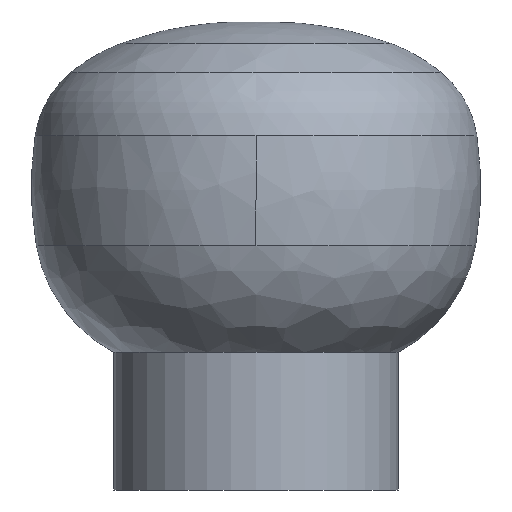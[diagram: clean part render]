
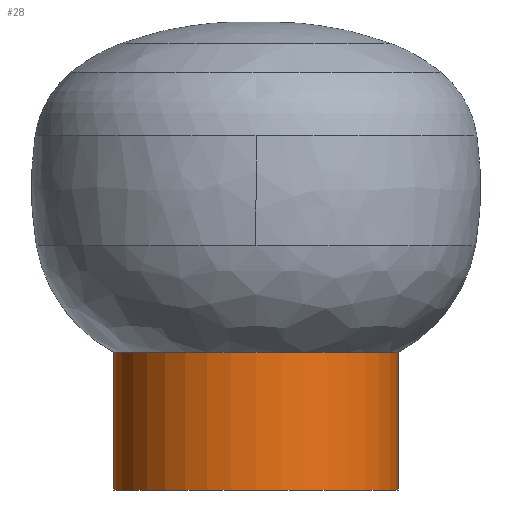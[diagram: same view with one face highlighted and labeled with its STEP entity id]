
A CAD part, front view. The second image highlights one B-rep face of the part: STEP entity #28.
In plain terms, the highlighted cylindrical face has radius 140 mm (diameter 280 mm), a partial arc.
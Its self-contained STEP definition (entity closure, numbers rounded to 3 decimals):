
#28=ADVANCED_FACE('',(#45),#237,.T.);
#45=FACE_OUTER_BOUND('',#62,.T.);
#62=EDGE_LOOP('',(#82,#83,#84,#85));
#82=ORIENTED_EDGE('',*,*,#142,.T.);
#83=ORIENTED_EDGE('',*,*,#141,.F.);
#84=ORIENTED_EDGE('',*,*,#143,.T.);
#85=ORIENTED_EDGE('',*,*,#139,.F.);
#139=EDGE_CURVE('',#216,#217,#168,.T.);
#141=EDGE_CURVE('',#218,#215,#169,.T.);
#142=EDGE_CURVE('',#216,#215,#183,.T.);
#143=EDGE_CURVE('',#218,#217,#184,.T.);
#168=B_SPLINE_CURVE_WITH_KNOTS('',1,(#406,#407),.UNSPECIFIED.,.F.,.F.,(2,
2),(-0.445,0.),.UNSPECIFIED.);
#169=B_SPLINE_CURVE_WITH_KNOTS('',1,(#411,#412),.UNSPECIFIED.,.F.,.F.,(2,
2),(-0.445,0.),.UNSPECIFIED.);
#183=TRIMMED_CURVE($,#200,(#414),(#415),.T.,.CARTESIAN.);
#184=TRIMMED_CURVE($,#201,(#417),(#418),.T.,.CARTESIAN.);
#200=CIRCLE('',#332,140.);
#201=CIRCLE('',#333,140.);
#215=VERTEX_POINT('',#399);
#216=VERTEX_POINT('',#400);
#217=VERTEX_POINT('',#401);
#218=VERTEX_POINT('',#402);
#237=CYLINDRICAL_SURFACE('',#327,140.);
#327=AXIS2_PLACEMENT_3D('',#396,#353,$);
#332=AXIS2_PLACEMENT_3D($,#413,#360,#361);
#333=AXIS2_PLACEMENT_3D($,#416,#362,#363);
#353=DIRECTION('',(0.,0.,1.));
#360=DIRECTION('',(0.,0.,-1.));
#361=DIRECTION('',(1.,0.,0.));
#362=DIRECTION('',(0.,0.,1.));
#363=DIRECTION('',(-1.,0.,0.));
#396=CARTESIAN_POINT('',(0.,0.,67.826));
#399=CARTESIAN_POINT('',(-140.,0.,135.652));
#400=CARTESIAN_POINT('',(140.,0.,135.652));
#401=CARTESIAN_POINT('',(140.,0.,0.));
#402=CARTESIAN_POINT('',(-140.,0.,0.));
#406=CARTESIAN_POINT('',(140.,0.,135.652));
#407=CARTESIAN_POINT('',(140.,0.,0.));
#411=CARTESIAN_POINT('',(-140.,0.,0.));
#412=CARTESIAN_POINT('',(-140.,0.,135.652));
#413=CARTESIAN_POINT('',(0.,0.,135.652));
#414=CARTESIAN_POINT('',(140.,0.,135.652));
#415=CARTESIAN_POINT('',(-140.,0.,135.652));
#416=CARTESIAN_POINT('',(0.,0.,0.));
#417=CARTESIAN_POINT('',(-140.,0.,0.));
#418=CARTESIAN_POINT('',(140.,0.,0.));
